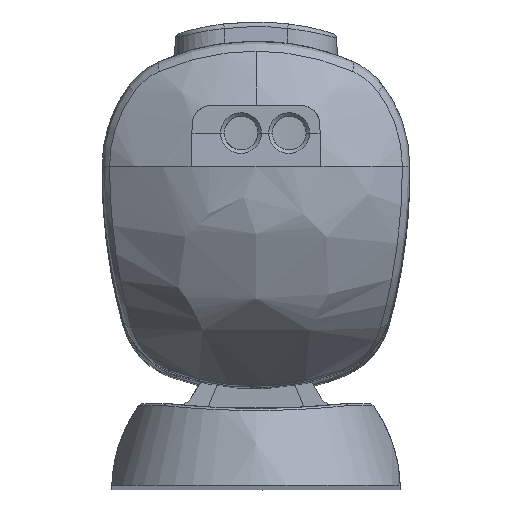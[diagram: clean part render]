
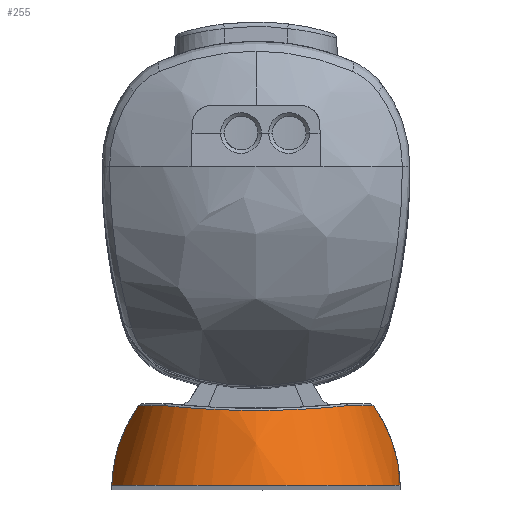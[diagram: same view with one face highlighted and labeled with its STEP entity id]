
A CAD part, top view. The second image highlights one B-rep face of the part: STEP entity #255.
In plain terms, the highlighted free-form (B-spline) face has degree [2, 2] with [5, 3] control points.
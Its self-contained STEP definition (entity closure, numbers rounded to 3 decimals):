
#255=ADVANCED_FACE($,(#926),#9058,.T.);
#926=FACE_OUTER_BOUND($,#1599,.T.);
#1599=EDGE_LOOP($,(#2499,#2500,#2501,#2502,#2503,#2504));
#2499=ORIENTED_EDGE($,*,*,#5946,.T.);
#2500=ORIENTED_EDGE($,*,*,#5947,.T.);
#2501=ORIENTED_EDGE($,*,*,#5948,.T.);
#2502=ORIENTED_EDGE($,*,*,#5949,.T.);
#2503=ORIENTED_EDGE($,*,*,#5950,.T.);
#2504=ORIENTED_EDGE($,*,*,#5945,.F.);
#5945=EDGE_CURVE($,#7724,#7727,#10646,.T.);
#5946=EDGE_CURVE($,#7724,#7728,#10647,.T.);
#5947=EDGE_CURVE($,#7728,#7729,#10648,.T.);
#5948=EDGE_CURVE($,#7729,#7730,#9397,.T.);
#5949=EDGE_CURVE($,#7730,#7731,#10649,.T.);
#5950=EDGE_CURVE($,#7731,#7727,#10650,.T.);
#7724=VERTEX_POINT($,#15802);
#7727=VERTEX_POINT($,#15805);
#7728=VERTEX_POINT($,#15806);
#7729=VERTEX_POINT($,#15807);
#7730=VERTEX_POINT($,#15808);
#7731=VERTEX_POINT($,#15809);
#9058=(
BOUNDED_SURFACE()
B_SPLINE_SURFACE(2,2,((#14050,#14051,#14052),(#14053,#14054,#14055),(#14056,
#14057,#14058),(#14059,#14060,#14061),(#14062,#14063,#14064)),.UNSPECIFIED.,
.F.,.F.,.F.)
B_SPLINE_SURFACE_WITH_KNOTS((3,2,3),(3,3),(23.572,47.144,
70.716),(24.009,32.888),.UNSPECIFIED.)
GEOMETRIC_REPRESENTATION_ITEM()
RATIONAL_B_SPLINE_SURFACE(((1.,0.957,1.),(0.707,
0.676,0.707),(1.,0.957,1.),(0.707,
0.676,0.707),(1.,0.957,1.)))
REPRESENTATION_ITEM($)
SURFACE()
);
#9397=B_SPLINE_CURVE_WITH_KNOTS($,3,(#11860,#11861,#11862,#11863,#11864,
#11865,#11866,#11867,#11868,#11869,#11870,#11871,#11872,#11873,#11874,#11875,
#11876,#11877,#11878,#11879,#11880,#11881,#11882,#11883,#11884,#11885,#11886,
#11887,#11888,#11889,#11890,#11891,#11892,#11893,#11894,#11895,#11896,#11897,
#11898,#11899),.UNSPECIFIED.,.F.,.F.,(4,2,2,2,2,2,2,2,2,2,2,2,2,2,2,2,2,
2,2,4),(0.,0.001,0.003,0.004,0.006,
0.007,0.008,0.009,0.01,
0.011,0.011,0.012,0.013,
0.014,0.015,0.017,0.018,
0.02,0.021,0.022),.UNSPECIFIED.);
#10646=(
BOUNDED_CURVE()
B_SPLINE_CURVE(2,(#11849,#11850,#11851,#11852,#11853),.UNSPECIFIED.,.F.,
.F.)
B_SPLINE_CURVE_WITH_KNOTS((3,2,3),(-47.124,-23.562,0.),
.UNSPECIFIED.)
CURVE()
GEOMETRIC_REPRESENTATION_ITEM()
RATIONAL_B_SPLINE_CURVE((1.,0.707,1.,0.707,1.))
REPRESENTATION_ITEM($)
);
#10647=(
BOUNDED_CURVE()
B_SPLINE_CURVE(2,(#11854,#11855,#11856),.UNSPECIFIED.,.F.,.F.)
B_SPLINE_CURVE_WITH_KNOTS((3,3),(0.,8.879),.UNSPECIFIED.)
CURVE()
GEOMETRIC_REPRESENTATION_ITEM()
RATIONAL_B_SPLINE_CURVE((1.,0.957,1.))
REPRESENTATION_ITEM($)
);
#10648=(
BOUNDED_CURVE()
B_SPLINE_CURVE(2,(#11857,#11858,#11859),.UNSPECIFIED.,.F.,.F.)
B_SPLINE_CURVE_WITH_KNOTS((3,3),(0.,8.108),.UNSPECIFIED.)
CURVE()
GEOMETRIC_REPRESENTATION_ITEM()
RATIONAL_B_SPLINE_CURVE((1.,0.945,1.))
REPRESENTATION_ITEM($)
);
#10649=(
BOUNDED_CURVE()
B_SPLINE_CURVE(2,(#11900,#11901,#11902),.UNSPECIFIED.,.F.,.F.)
B_SPLINE_CURVE_WITH_KNOTS((3,3),(0.,8.108),.UNSPECIFIED.)
CURVE()
GEOMETRIC_REPRESENTATION_ITEM()
RATIONAL_B_SPLINE_CURVE((1.,0.945,1.))
REPRESENTATION_ITEM($)
);
#10650=(
BOUNDED_CURVE()
B_SPLINE_CURVE(2,(#11903,#11904,#11905),.UNSPECIFIED.,.F.,.F.)
B_SPLINE_CURVE_WITH_KNOTS((3,3),(0.,8.879),.UNSPECIFIED.)
CURVE()
GEOMETRIC_REPRESENTATION_ITEM()
RATIONAL_B_SPLINE_CURVE((1.,0.957,1.))
REPRESENTATION_ITEM($)
);
#11849=CARTESIAN_POINT($,(65.,0.,128.));
#11850=CARTESIAN_POINT($,(65.,0.,143.));
#11851=CARTESIAN_POINT($,(50.,0.,143.));
#11852=CARTESIAN_POINT($,(35.,0.,143.));
#11853=CARTESIAN_POINT($,(35.,0.,128.));
#11854=CARTESIAN_POINT($,(65.,0.,128.));
#11855=CARTESIAN_POINT($,(64.866,4.572,128.));
#11856=CARTESIAN_POINT($,(62.203,8.291,128.));
#11857=CARTESIAN_POINT($,(62.203,8.291,128.));
#11858=CARTESIAN_POINT($,(62.203,8.291,132.21));
#11859=CARTESIAN_POINT($,(59.607,8.291,135.525));
#11860=CARTESIAN_POINT($,(59.607,8.291,135.525));
#11861=CARTESIAN_POINT($,(59.34,8.262,135.9));
#11862=CARTESIAN_POINT($,(59.051,8.232,136.261));
#11863=CARTESIAN_POINT($,(58.432,8.171,136.951));
#11864=CARTESIAN_POINT($,(58.102,8.141,137.279));
#11865=CARTESIAN_POINT($,(57.405,8.08,137.897));
#11866=CARTESIAN_POINT($,(57.038,8.05,138.186));
#11867=CARTESIAN_POINT($,(56.27,7.993,138.721));
#11868=CARTESIAN_POINT($,(55.869,7.966,138.967));
#11869=CARTESIAN_POINT($,(55.039,7.915,139.41));
#11870=CARTESIAN_POINT($,(54.61,7.892,139.607));
#11871=CARTESIAN_POINT($,(53.729,7.85,139.947));
#11872=CARTESIAN_POINT($,(53.277,7.833,140.091));
#11873=CARTESIAN_POINT($,(52.584,7.811,140.266));
#11874=CARTESIAN_POINT($,(52.351,7.804,140.317));
#11875=CARTESIAN_POINT($,(51.886,7.793,140.404));
#11876=CARTESIAN_POINT($,(51.654,7.789,140.44));
#11877=CARTESIAN_POINT($,(51.187,7.781,140.499));
#11878=CARTESIAN_POINT($,(50.953,7.778,140.52));
#11879=CARTESIAN_POINT($,(50.48,7.775,140.55));
#11880=CARTESIAN_POINT($,(50.242,7.774,140.557));
#11881=CARTESIAN_POINT($,(49.765,7.774,140.557));
#11882=CARTESIAN_POINT($,(49.523,7.775,140.55));
#11883=CARTESIAN_POINT($,(49.04,7.779,140.52));
#11884=CARTESIAN_POINT($,(48.801,7.782,140.497));
#11885=CARTESIAN_POINT($,(48.101,7.793,140.409));
#11886=CARTESIAN_POINT($,(47.639,7.804,140.322));
#11887=CARTESIAN_POINT($,(46.725,7.833,140.092));
#11888=CARTESIAN_POINT($,(46.273,7.85,139.948));
#11889=CARTESIAN_POINT($,(45.392,7.892,139.607));
#11890=CARTESIAN_POINT($,(44.962,7.915,139.41));
#11891=CARTESIAN_POINT($,(44.132,7.965,138.968));
#11892=CARTESIAN_POINT($,(43.732,7.993,138.723));
#11893=CARTESIAN_POINT($,(42.964,8.05,138.188));
#11894=CARTESIAN_POINT($,(42.597,8.08,137.898));
#11895=CARTESIAN_POINT($,(41.9,8.141,137.281));
#11896=CARTESIAN_POINT($,(41.57,8.171,136.952));
#11897=CARTESIAN_POINT($,(40.95,8.232,136.262));
#11898=CARTESIAN_POINT($,(40.661,8.262,135.9));
#11899=CARTESIAN_POINT($,(40.393,8.291,135.525));
#11900=CARTESIAN_POINT($,(40.393,8.291,135.525));
#11901=CARTESIAN_POINT($,(37.797,8.291,132.21));
#11902=CARTESIAN_POINT($,(37.797,8.291,128.));
#11903=CARTESIAN_POINT($,(37.797,8.291,128.));
#11904=CARTESIAN_POINT($,(35.134,4.572,128.));
#11905=CARTESIAN_POINT($,(35.,0.,128.));
#14050=CARTESIAN_POINT($,(35.,0.,128.));
#14051=CARTESIAN_POINT($,(35.134,4.572,128.));
#14052=CARTESIAN_POINT($,(37.797,8.291,128.));
#14053=CARTESIAN_POINT($,(35.,0.,143.));
#14054=CARTESIAN_POINT($,(35.134,4.572,142.866));
#14055=CARTESIAN_POINT($,(37.797,8.291,140.203));
#14056=CARTESIAN_POINT($,(50.,0.,143.));
#14057=CARTESIAN_POINT($,(50.,4.572,142.866));
#14058=CARTESIAN_POINT($,(50.,8.291,140.203));
#14059=CARTESIAN_POINT($,(65.,0.,143.));
#14060=CARTESIAN_POINT($,(64.866,4.572,142.866));
#14061=CARTESIAN_POINT($,(62.203,8.291,140.203));
#14062=CARTESIAN_POINT($,(65.,0.,128.));
#14063=CARTESIAN_POINT($,(64.866,4.572,128.));
#14064=CARTESIAN_POINT($,(62.203,8.291,128.));
#15802=CARTESIAN_POINT($,(65.,0.,128.));
#15805=CARTESIAN_POINT($,(35.,0.,128.));
#15806=CARTESIAN_POINT($,(62.203,8.291,128.));
#15807=CARTESIAN_POINT($,(59.607,8.291,135.525));
#15808=CARTESIAN_POINT($,(40.393,8.291,135.525));
#15809=CARTESIAN_POINT($,(37.797,8.291,128.));
